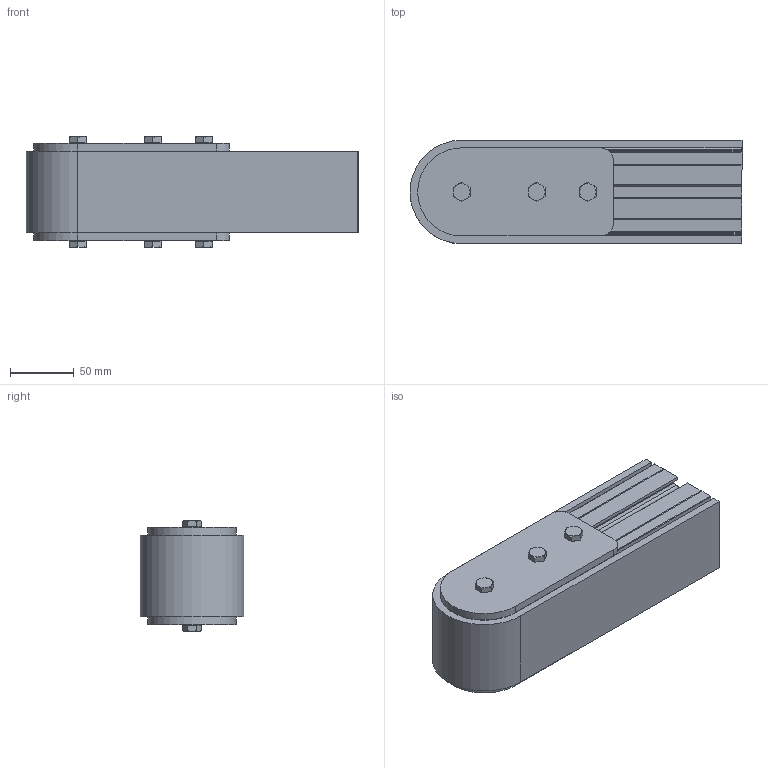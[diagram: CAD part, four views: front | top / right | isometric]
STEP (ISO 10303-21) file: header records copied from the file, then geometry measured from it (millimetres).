
FILE_DESCRIPTION((''),'2;1');
FILE_NAME('X:\Ritarkiv\STEP-Carryline Standarddelar\Serie 620\620-4060.stp','2010-07-05T10:02:25',('Mathias'),(''),'Autodesk Inventor 2010','Autodesk Inventor 2010','');
FILE_SCHEMA(('CONFIG_CONTROL_DESIGN'));
Length unit declared in the file: millimetre
Products named in the file (1): 620-4060
Bounding box: 260 x 81 x 86.6 mm (x, y, z)
Volume: 587358.4 mm3; surface area: 274289.2 mm2
Topology: 1 solids, 9 shells, 556 faces, 1469 edges, 940 vertices
Faces by surface type: plane 334, cylinder 158, cone 46, bspline 10, torus 4, sphere 4
Full cylindrical faces by diameter (mm): 8 x6, 11.63 x6, 14 x2, 15 x4, 29 x1, 35 x3, 37 x1, 65 x1
Entity records: 17364 total; most frequent: CARTESIAN_POINT 3240, DIRECTION 2828, ORIENTED_EDGE 2798, EDGE_CURVE 1399, AXIS2_PLACEMENT_3D 958, VERTEX_POINT 922, VECTOR 912, LINE 912
